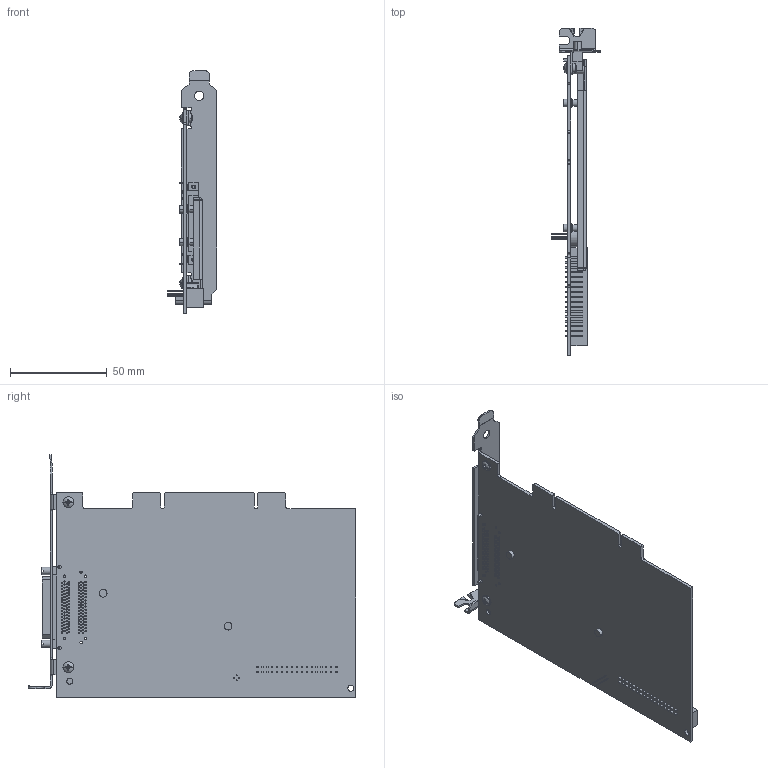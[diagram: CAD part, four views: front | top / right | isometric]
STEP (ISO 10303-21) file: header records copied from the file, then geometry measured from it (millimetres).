
FILE_DESCRIPTION((''),'2;1');
FILE_NAME('CU-PCI-6251','2008-05-08T',('chrisj'),(''),'PRO/ENGINEER BY PARAMETRIC TECHNOLOGY CORPORATION, 2006300','PRO/ENGINEER BY PARAMETRIC TECHNOLOGY CORPORATION, 2006300','');
FILE_SCHEMA(('AUTOMOTIVE_DESIGN_CC2 { 1 2 10303 214 -1 1 5 2 }'));
Length unit declared in the file: inch
Products named in the file (1): CU-PCI-6251
Bounding box: 25.73 x 169.49 x 125.41 mm (x, y, z)
Volume: 38448.3 mm3; surface area: 55644.7 mm2
Topology: 1 solids, 3 shells, 1423 faces, 3732 edges, 2394 vertices
Faces by surface type: plane 836, cylinder 511, bspline 44, torus 16, cone 12, sphere 4
Entity records: 44901 total; most frequent: CARTESIAN_POINT 8685, DIRECTION 7478, ORIENTED_EDGE 7384, EDGE_CURVE 3692, VECTOR 2512, LINE 2512, AXIS2_PLACEMENT_3D 2483, VERTEX_POINT 2432
